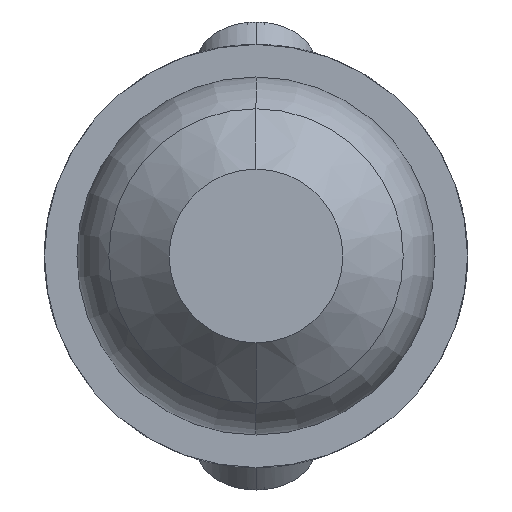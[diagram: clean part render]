
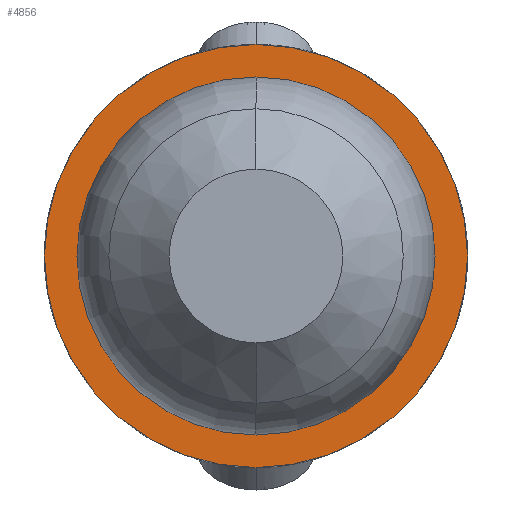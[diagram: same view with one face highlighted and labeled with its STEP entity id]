
A CAD part, front view. The second image highlights one B-rep face of the part: STEP entity #4856.
In plain terms, the highlighted planar face has unit normal (0, -1, 0).
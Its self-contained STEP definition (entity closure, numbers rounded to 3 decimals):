
#25 = VERTEX_POINT ( 'NONE', #517 ) ;
#225 = CARTESIAN_POINT ( 'NONE',  ( 0., 0., 0. ) ) ;
#400 = VERTEX_POINT ( 'NONE', #5764 ) ;
#517 = CARTESIAN_POINT ( 'NONE',  ( 0., 0., -19.5 ) ) ;
#679 = CIRCLE ( 'NONE', #3209, 19.5 ) ;
#1575 = CARTESIAN_POINT ( 'NONE',  ( 0., 0., 0. ) ) ;
#2356 = DIRECTION ( 'NONE',  ( 0., 0., 1. ) ) ;
#2449 = DIRECTION ( 'NONE',  ( 0., 0., 1. ) ) ;
#2472 = AXIS2_PLACEMENT_3D ( 'NONE', #1575, #4710, #2449 ) ;
#2485 = CIRCLE ( 'NONE', #4033, 19.5 ) ;
#2751 = EDGE_CURVE ( 'NONE', #25, #400, #679, .T. ) ;
#2958 = DIRECTION ( 'NONE',  ( 0., 1., 0. ) ) ;
#2976 = CARTESIAN_POINT ( 'NONE',  ( 0., 0., 0. ) ) ;
#3182 = ORIENTED_EDGE ( 'NONE', *, *, #2751, .F. ) ;
#3209 = AXIS2_PLACEMENT_3D ( 'NONE', #2976, #4521, #2356 ) ;
#3852 = DIRECTION ( 'NONE',  ( 0., 0., 1. ) ) ;
#4033 = AXIS2_PLACEMENT_3D ( 'NONE', #225, #2958, #3852 ) ;
#4266 = PLANE ( 'NONE',  #2472 ) ;
#4521 = DIRECTION ( 'NONE',  ( 0., 1., 0. ) ) ;
#4645 = EDGE_LOOP ( 'NONE', ( #3182, #5507 ) ) ;
#4710 = DIRECTION ( 'NONE',  ( 0., 1., 0. ) ) ;
#4856 = ADVANCED_FACE ( 'NONE', ( #5702 ), #4266, .F. ) ;
#5507 = ORIENTED_EDGE ( 'NONE', *, *, #5732, .F. ) ;
#5702 = FACE_OUTER_BOUND ( 'NONE', #4645, .T. ) ;
#5732 = EDGE_CURVE ( 'NONE', #400, #25, #2485, .T. ) ;
#5764 = CARTESIAN_POINT ( 'NONE',  ( 0., 0., 19.5 ) ) ;
